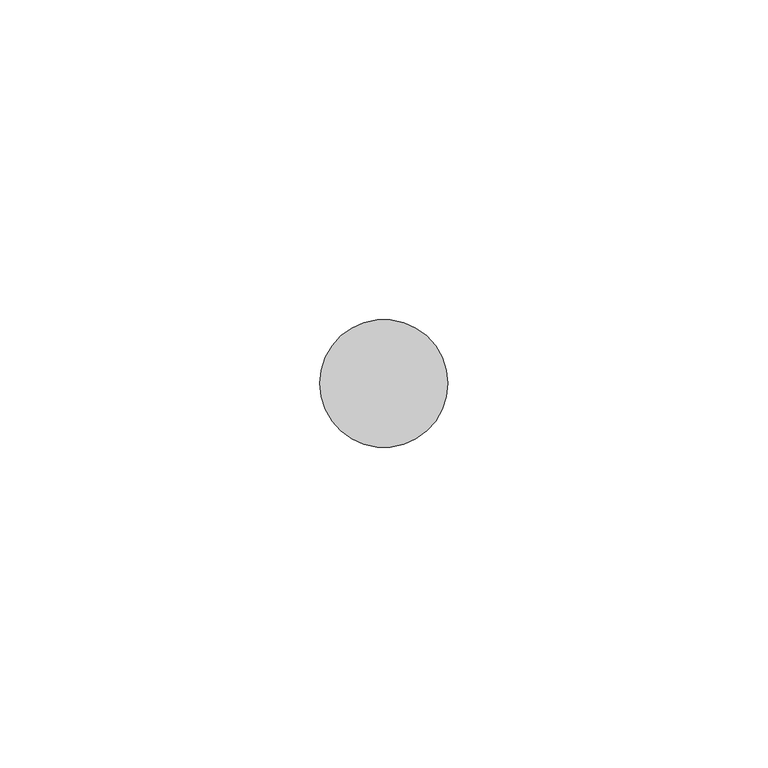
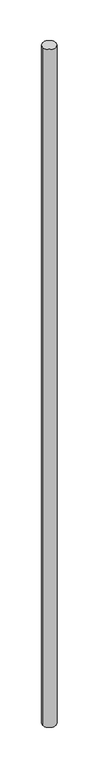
"""IFC4 building model written with IfcOpenShell, lengths in millimetres: member geometry, Импост круглого сечения : Радиус 25 мм."""

import ifcopenshell
import ifcopenshell.guid

model = None  # the IFC model being written
_history = None  # IfcOwnerHistory: only IFC2X3 demands one
_inside = {}  # id of a spatial element -> (the spatial element, [elements in it])
_under = {}  # id of a project, library or spatial element -> (it, [spatial elements below it])
_declared = {}  # id of a project -> (the project, [libraries it declares])
_typed = {}  # id of a type object -> (the type object, [elements of that type])
_made_of = {}  # id of a material, layer set ... -> (it, [elements and type objects made of it])


def new_model(schema):
    """Start an empty IFC model of exactly this schema.

    Asked for "IFC4X3", IfcOpenShell would pick the latest addendum, in which some entities
    have other attributes; the version numbers below select the first issue.
    IFC2X3 requires an IfcOwnerHistory on every rooted entity: one is made here for all.
    """
    global model, _history
    if schema == "IFC4X3":
        model = ifcopenshell.file(schema_version=(4, 3, 0, 0))
    else:
        model = ifcopenshell.file(schema=schema)
    _inside.clear()
    _under.clear()
    _declared.clear()
    _typed.clear()
    _made_of.clear()
    _history = None
    if model.schema == "IFC2X3":
        org = make("IfcOrganization", Name="unknown")
        user = make(
            "IfcPersonAndOrganization",
            ThePerson=make("IfcPerson", FamilyName="unknown"),
            TheOrganization=org,
        )
        app = make(
            "IfcApplication",
            ApplicationDeveloper=org,
            Version="unknown",
            ApplicationFullName="unknown",
            ApplicationIdentifier="unknown",
        )
        _history = make(
            "IfcOwnerHistory",
            OwningUser=user,
            OwningApplication=app,
            ChangeAction="ADDED",
            CreationDate=0,
        )
    return model


def make(cls, **values):
    """One entity of the class cls with the attributes given. An attribute that is None is left unset."""
    return model.create_entity(
        cls, **{name: value for name, value in values.items() if value is not None}
    )


def rooted(cls, **values):
    """An entity with a GlobalId (a new one), such as an element, a storey or a relation."""
    return make(cls, GlobalId=ifcopenshell.guid.new(), OwnerHistory=_history, **values)


def si_unit(unit_type, name, prefix=None):
    """IfcSIUnit, for example si_unit("LENGTHUNIT", "METRE", prefix="MILLI")."""
    return make("IfcSIUnit", UnitType=unit_type, Prefix=prefix, Name=name)


def assignment(units):
    """IfcUnitAssignment: the units of a project."""
    return None if units is None else make("IfcUnitAssignment", Units=units)


def point(xyz):
    """IfcCartesianPoint."""
    return None if xyz is None else make("IfcCartesianPoint", Coordinates=xyz)


def direction(xyz):
    """IfcDirection."""
    return None if xyz is None else make("IfcDirection", DirectionRatios=xyz)


def frame(location, z_axis=None, x_axis=None):
    """IfcAxis2Placement3D, a coordinate frame: its origin and axes. An axis left out is left unset."""
    return make(
        "IfcAxis2Placement3D",
        Location=point(location),
        Axis=direction(z_axis),
        RefDirection=direction(x_axis),
    )


def frame_2d(location, x_axis=None):
    """IfcAxis2Placement2D, a coordinate frame in the plane: its origin and x axis."""
    return make(
        "IfcAxis2Placement2D", Location=point(location), RefDirection=direction(x_axis)
    )


def origin():
    """The frame at (0, 0, 0) with its axes left unset."""
    return frame((0.0, 0.0, 0.0))


def place(relative_to, where):
    """IfcLocalPlacement: puts the frame where relative to a parent placement (None: the world)."""
    return make(
        "IfcLocalPlacement", PlacementRelTo=relative_to, RelativePlacement=where
    )


def context(
    kind, dimensions, precision=None, world=None, true_north=None, identifier=None
):
    """IfcGeometricRepresentationContext, for example the 3D "Model" context."""
    return make(
        "IfcGeometricRepresentationContext",
        ContextIdentifier=identifier,
        ContextType=kind,
        CoordinateSpaceDimension=dimensions,
        Precision=precision,
        WorldCoordinateSystem=world,
        TrueNorth=true_north,
    )


def project(units=None, contexts=None):
    """IfcProject with its units and contexts."""
    return rooted(
        "IfcProject",
        Name="project",
        RepresentationContexts=contexts,
        UnitsInContext=assignment(units),
    )


def spatial(cls, under=None, at=None, **own):
    """A site, building, storey or space (cls), placed at a placement, below another one or the project."""
    s = rooted(cls, ObjectPlacement=at, **own)
    if under is not None:
        _under.setdefault(under.id(), (under, []))[1].append(s)
    return s


def circle_curve(where, radius):
    """IfcCircle in the frame where."""
    return make("IfcCircle", Position=where, Radius=radius)


def trimmed(basis, trim1, trim2, sense, master):
    """IfcTrimmedCurve: the piece of a basis curve between two trims."""
    return make(
        "IfcTrimmedCurve",
        BasisCurve=basis,
        Trim1=trim1,
        Trim2=trim2,
        SenseAgreement=sense,
        MasterRepresentation=master,
    )


def segment(curve, same_sense, transition):
    """IfcCompositeCurveSegment."""
    return make(
        "IfcCompositeCurveSegment",
        Transition=transition,
        SameSense=same_sense,
        ParentCurve=curve,
    )


def composite_curve(segments, self_intersect=None):
    """IfcCompositeCurve: segments joined end to end."""
    return make("IfcCompositeCurve", Segments=segments, SelfIntersect=self_intersect)


def outline(outer, holes=None, kind="AREA"):
    """IfcArbitraryClosedProfileDef: a profile drawn as a closed curve; with holes, ...WithVoids."""
    if holes is None:
        return make("IfcArbitraryClosedProfileDef", ProfileType=kind, OuterCurve=outer)
    return make(
        "IfcArbitraryProfileDefWithVoids",
        ProfileType=kind,
        OuterCurve=outer,
        InnerCurves=holes,
    )


def extrude(swept, where, along, depth):
    """IfcExtrudedAreaSolid: the profile swept, set in the frame where, extruded along a direction by depth."""
    return make(
        "IfcExtrudedAreaSolid",
        SweptArea=swept,
        Position=where,
        ExtrudedDirection=direction(along),
        Depth=depth,
    )


def shape(context_of_items, identifier, shape_type, items):
    """IfcShapeRepresentation: the items that make up one representation, for example the "Body"."""
    return make(
        "IfcShapeRepresentation",
        ContextOfItems=context_of_items,
        RepresentationIdentifier=identifier,
        RepresentationType=shape_type,
        Items=items,
    )


def source(mapping_origin, context_of_items, identifier, shape_type, items):
    """IfcRepresentationMap: a shape defined once, which mapped items show again and again."""
    return make(
        "IfcRepresentationMap",
        MappingOrigin=mapping_origin,
        MappedRepresentation=shape(context_of_items, identifier, shape_type, items),
    )


def transform(
    local_origin,
    x_axis=None,
    y_axis=None,
    z_axis=None,
    scale=None,
    scale2=None,
    scale3=None,
    uniform=True,
):
    """IfcCartesianTransformationOperator3D, or its non-uniform kind. x_axis, y_axis, z_axis: its Axis1, 2, 3."""
    if uniform:
        return make(
            "IfcCartesianTransformationOperator3D",
            Axis1=direction(x_axis),
            Axis2=direction(y_axis),
            LocalOrigin=point(local_origin),
            Scale=scale,
            Axis3=direction(z_axis),
        )
    return make(
        "IfcCartesianTransformationOperator3DnonUniform",
        Axis1=direction(x_axis),
        Axis2=direction(y_axis),
        LocalOrigin=point(local_origin),
        Scale=scale,
        Axis3=direction(z_axis),
        Scale2=scale2,
        Scale3=scale3,
    )


def mapped(mapping_source, mapping_target):
    """IfcMappedItem: shows the shape of a source again, moved by a transform."""
    return make(
        "IfcMappedItem", MappingSource=mapping_source, MappingTarget=mapping_target
    )


def made_of(thing, what):
    """Note that an element or type object is made of a material, layer set ...; save() writes the relation."""
    if what is not None:
        _made_of.setdefault(what.id(), (what, []))[1].append(thing)
    return thing


def element(
    cls,
    number,
    at=None,
    inside=None,
    cuts=None,
    type_object=None,
    material=None,
    context=None,
    identifier="Body",
    shape_type=None,
    held_by="IfcProductDefinitionShape",
    body=None,
    shapes=None,
    **own,
):
    """One element of the class cls, such as IfcWall. Its Tag is "e" and its number.

    at: its placement. inside: the storey or other place that contains it. cuts: it is an
    opening in that element (IfcRelVoidsElement). A single representation is given by context,
    identifier, shape_type and body (its items); several are given by shapes. held_by: the class
    of the entity that holds the representations. save() writes the other relations.
    """
    e = rooted(cls, Tag="e%d" % number, ObjectPlacement=at, **own)
    if body is not None:
        shapes = [shape(context, identifier, shape_type, body)]
    if shapes is not None:
        e.Representation = make(held_by, Representations=shapes)
    if inside is not None:
        _inside.setdefault(inside.id(), (inside, []))[1].append(e)
    if cuts is not None:
        rooted(
            "IfcRelVoidsElement", RelatingBuildingElement=cuts, RelatedOpeningElement=e
        )
    if type_object is not None:
        _typed.setdefault(type_object.id(), (type_object, []))[1].append(e)
    return made_of(e, material)


def aggregate(whole, parts):
    """IfcRelAggregates: a whole, such as a stair, and the parts it consists of."""
    return rooted("IfcRelAggregates", RelatingObject=whole, RelatedObjects=parts)


def save(model, path):
    """Write the relations noted so far, then the file.

    IfcRelAggregates (storeys below a building ...), IfcRelContainedInSpatialStructure (elements
    in a storey), IfcRelDefinesByType, IfcRelAssociatesMaterial and IfcRelDeclares: one each for
    every whole, place, type object, material and project.
    """
    for whole, parts in _under.values():
        aggregate(whole, parts)
    for where, things in _inside.values():
        rooted(
            "IfcRelContainedInSpatialStructure",
            RelatedElements=things,
            RelatingStructure=where,
        )
    for kind, things in _typed.values():
        rooted("IfcRelDefinesByType", RelatedObjects=things, RelatingType=kind)
    for what, things in _made_of.values():
        rooted("IfcRelAssociatesMaterial", RelatedObjects=things, RelatingMaterial=what)
    for by, libraries in _declared.values():
        rooted("IfcRelDeclares", RelatingContext=by, RelatedDefinitions=libraries)
    model.write(path)


def member_5f8e5638(model_context):
    return source(origin(), model_context, "Body", "SweptSolid", [
        extrude(outline(composite_curve([segment(trimmed(circle_curve(frame_2d((-10.0, 0.0)), 10.0), [point((0.0, 0.0))], [point((-20.0, 0.0))], False, "CARTESIAN"), True, "CONTINUOUS"), segment(trimmed(circle_curve(frame_2d((-10.0, 0.0)), 10.0), [point((-20.0, 0.0))], [point((0.0, 0.0))], False, "CARTESIAN"), True, "CONTINUOUS")], self_intersect=False)), frame((0.0, 0.0, -1062.651721), z_axis=(0.0, 0.0, 1.0), x_axis=(1.0, 0.0, 0.0)), (0.0, 0.0, 1.0), 1062.651721),
    ])


if __name__ == "__main__":
    model = new_model("IFC4")
    model_context = context("Model", 3, world=origin())
    ifc_project = project(units=[si_unit("LENGTHUNIT", "METRE", prefix="MILLI")], contexts=[model_context])
    site = spatial("IfcSite", under=ifc_project)
    building = spatial("IfcBuilding", under=site)
    placement = place(None, origin())
    member_shape = member_5f8e5638(model_context)
    element("IfcMember", 1, ObjectType="Импост круглого сечения : Радиус 25 мм", at=placement, inside=building, context=model_context, shape_type="MappedRepresentation", body=[
        mapped(member_shape, transform((0.0, 0.0, 0.0), x_axis=(1.0, 0.0, 0.0), y_axis=(0.0, 1.0, 0.0), z_axis=(0.0, 0.0, 1.0))),
    ])
    save(model, "model.ifc")
